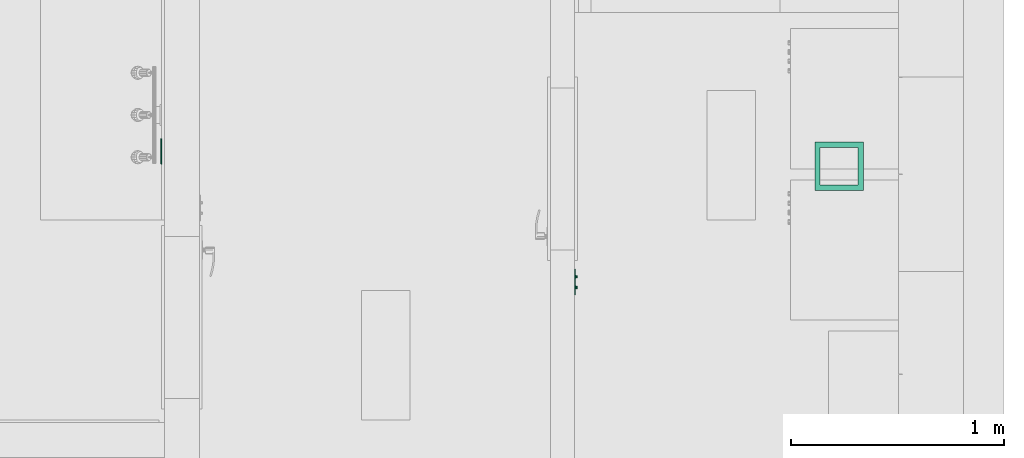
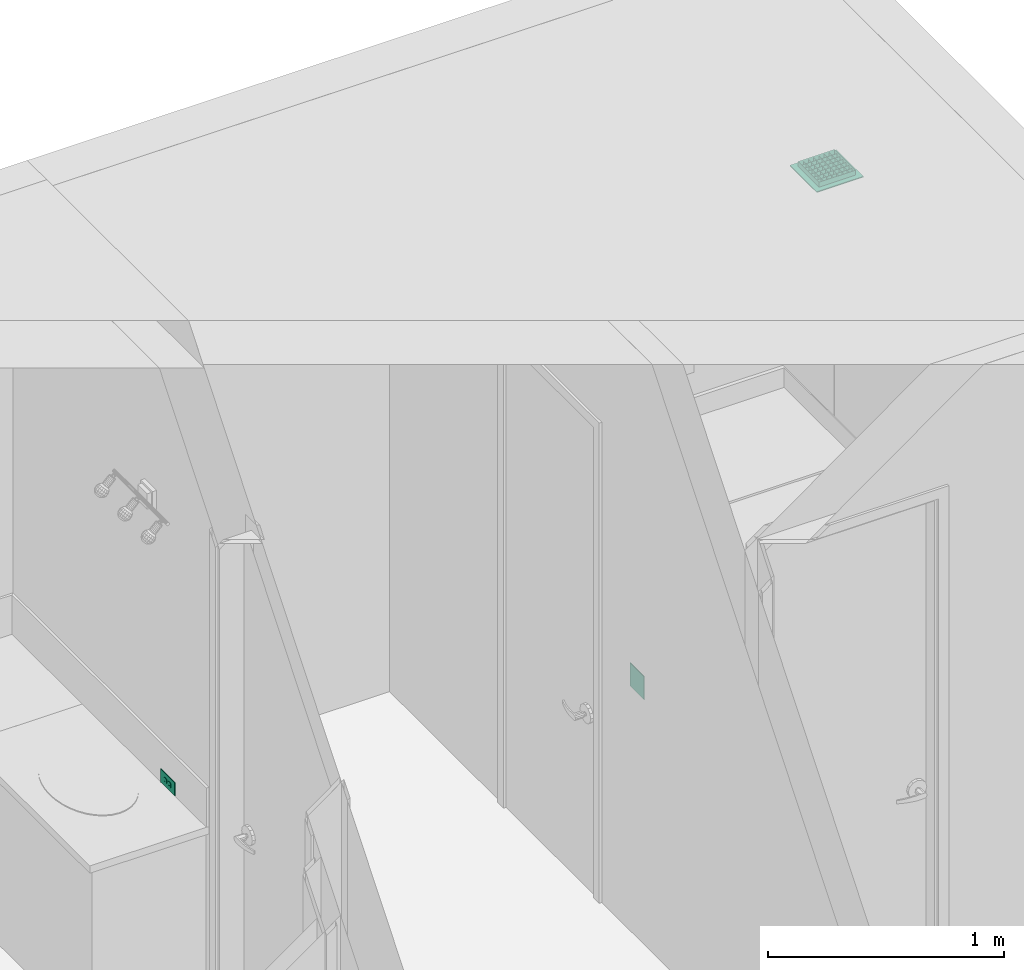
# One storey, part 31 of 103: 2 flow controllers, 1 distribution flow element.
"""IFC2X3 building model written with IfcOpenShell, lengths in inches."""

from ifc_helpers import new_model, entity, si_unit, converted_unit, derived_unit, money_unit, direction, frame, origin_with_axes, place, context, subcontext, project, spatial, open_shell, faceted_brep, surface_model, source, transform, mapped, type_object, element, save


model = new_model("IFC2X3")

# Units and contexts
model_context = context("Model", 3, precision=0.00039370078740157, world=origin_with_axes(), true_north=direction((0.0, 1.0)))
plan_context = context("Plan", 3, precision=0.00039370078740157, world=origin_with_axes(), true_north=direction((0.0, 1.0)))
body_context = subcontext(model_context, "Body", "Model", "MODEL_VIEW")
ifc_project = project(units=[converted_unit("LENGTHUNIT", "INCH", entity("IfcPositiveLengthMeasure", 0.0254), si_unit("LENGTHUNIT", "METRE"), dimensions=[1, 0, 0, 0, 0, 0, 0]), converted_unit("AREAUNIT", "SQUARE_FOOT", entity("IfcPositiveLengthMeasure", 0.09290304), si_unit("AREAUNIT", "SQUARE_METRE"), dimensions=[2, 0, 0, 0, 0, 0, 0]), si_unit("PLANEANGLEUNIT", "RADIAN"), si_unit("SOLIDANGLEUNIT", "STERADIAN"), money_unit("USD"), converted_unit("TIMEUNIT", "Year", entity("IfcTimeMeasure", 31557600.0), si_unit("TIMEUNIT", "SECOND"), dimensions=[0, 0, 1, 0, 0, 0, 0]), si_unit("MASSUNIT", "GRAM", prefix="KILO"), si_unit("THERMODYNAMICTEMPERATUREUNIT", "DEGREE_CELSIUS"), si_unit("LUMINOUSINTENSITYUNIT", "LUMEN"), si_unit("ENERGYUNIT", "JOULE", prefix="MEGA"), derived_unit("SPECIFICHEATCAPACITYUNIT", [(si_unit("ENERGYUNIT", "JOULE"), 1), (si_unit("MASSUNIT", "GRAM", prefix="KILO"), -1), (si_unit("THERMODYNAMICTEMPERATUREUNIT", "KELVIN"), -1)])], contexts=[model_context, plan_context])

# Site, building, storey
site_placement = place(None, origin_with_axes())
site = spatial("IfcSite", under=ifc_project, at=site_placement, Name="Site", CompositionType="ELEMENT")
building_placement = place(site_placement, origin_with_axes())
building = spatial("IfcBuilding", under=site, at=building_placement, Name="Building", CompositionType="ELEMENT")
storey_placement = place(building_placement, frame((0.0, 0.0, 127.9999999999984), z_axis=(0.0, 0.0, 1.0), x_axis=(1.0, 0.0, 0.0)))
storey = spatial("IfcBuildingStorey", under=building, at=storey_placement, Name="Second Floor", CompositionType="ELEMENT", Elevation=128.0)

# Distribution flow element
valve_type = type_object("IfcValveType", Name="Ceiling Grille", PredefinedType="NOTDEFINED")
shared_shape_1 = source(origin_with_axes(), body_context, "Body", "SurfaceModel", [
    faceted_brep([(-4.499876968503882, 4.499876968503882, -0.196850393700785), (-4.499876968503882, 4.499876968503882, 0.0), (4.499876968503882, 4.499876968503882, 0.0), (4.499876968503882, 4.499876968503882, -0.196850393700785), (-4.499876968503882, -4.499876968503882, -0.196850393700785), (-4.499876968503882, -4.499876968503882, 0.0), (4.499876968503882, -4.499876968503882, 0.0), (-3.515624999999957, 3.515624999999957, 0.0), (3.515624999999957, 3.515624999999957, 0.0), (3.515624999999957, -3.515624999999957, 0.0), (-3.515624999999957, -3.515624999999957, 0.0), (4.499876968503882, -4.499876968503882, -0.196850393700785), (-3.515624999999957, 3.515624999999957, -0.196850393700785), (-3.515624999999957, -3.515624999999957, -0.196850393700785), (3.515624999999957, -3.515624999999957, -0.196850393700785), (3.515624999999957, 3.515624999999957, -0.196850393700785)], [[[0, 1, 2, 3]], [[4, 5, 1, 0]], [[1, 5, 6, 2], [7, 8, 9, 10]], [[3, 2, 6, 11]], [[0, 3, 11, 4], [12, 13, 14, 15]], [[11, 6, 5, 4]], [[15, 8, 7, 12]], [[14, 9, 8, 15]], [[13, 10, 9, 14]], [[12, 7, 10, 13]]]),
    surface_model("IfcShellBasedSurfaceModel", [(3.4762549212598, 3.499999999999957, -0.196850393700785), (3.4762549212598, 3.499999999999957, 0.78740157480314), (-3.4762549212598, 3.499999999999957, 0.78740157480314), (-3.4762549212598, 3.499999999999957, -0.196850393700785)], [open_shell([[[0, 1, 2, 3]]])]),
    surface_model("IfcShellBasedSurfaceModel", [(3.4762549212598, 2.499999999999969, -0.196850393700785), (3.4762549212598, 2.499999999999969, 0.78740157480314), (-3.4762549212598, 2.499999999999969, 0.78740157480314), (-3.4762549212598, 2.499999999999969, -0.196850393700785)], [open_shell([[[0, 1, 2, 3]]])]),
    surface_model("IfcShellBasedSurfaceModel", [(3.4762549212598, 1.499999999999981, -0.196850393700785), (3.4762549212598, 1.499999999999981, 0.78740157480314), (-3.4762549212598, 1.499999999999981, 0.78740157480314), (-3.4762549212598, 1.499999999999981, -0.196850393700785)], [open_shell([[[0, 1, 2, 3]]])]),
    surface_model("IfcShellBasedSurfaceModel", [(3.4762549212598, 0.499999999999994, -0.196850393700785), (3.4762549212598, 0.4999999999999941, 0.78740157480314), (-3.4762549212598, 0.4999999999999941, 0.78740157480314), (-3.4762549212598, 0.499999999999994, -0.196850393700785)], [open_shell([[[0, 1, 2, 3]]])]),
    surface_model("IfcShellBasedSurfaceModel", [(3.4762549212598, -0.499999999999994, -0.196850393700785), (3.4762549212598, -0.4999999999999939, 0.78740157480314), (-3.4762549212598, -0.4999999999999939, 0.78740157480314), (-3.4762549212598, -0.499999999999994, -0.196850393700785)], [open_shell([[[0, 1, 2, 3]]])]),
    surface_model("IfcShellBasedSurfaceModel", [(3.4762549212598, -1.499999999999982, -0.196850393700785), (3.4762549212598, -1.499999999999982, 0.78740157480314), (-3.4762549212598, -1.499999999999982, 0.78740157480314), (-3.4762549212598, -1.499999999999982, -0.196850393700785)], [open_shell([[[0, 1, 2, 3]]])]),
    surface_model("IfcShellBasedSurfaceModel", [(3.4762549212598, -2.499999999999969, -0.196850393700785), (3.4762549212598, -2.499999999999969, 0.78740157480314), (-3.4762549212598, -2.499999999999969, 0.78740157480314), (-3.4762549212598, -2.499999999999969, -0.196850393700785)], [open_shell([[[0, 1, 2, 3]]])]),
    surface_model("IfcShellBasedSurfaceModel", [(3.4762549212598, -3.499999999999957, -0.196850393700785), (3.4762549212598, -3.499999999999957, 0.78740157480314), (-3.4762549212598, -3.499999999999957, 0.78740157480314), (-3.4762549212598, -3.499999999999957, -0.196850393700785)], [open_shell([[[0, 1, 2, 3]]])]),
    surface_model("IfcShellBasedSurfaceModel", [(-3.499999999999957, -3.4762549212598, -0.196850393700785), (-3.499999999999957, -3.4762549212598, 0.78740157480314), (-3.499999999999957, 3.4762549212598, 0.78740157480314), (-3.499999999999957, 3.4762549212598, -0.196850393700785)], [open_shell([[[0, 1, 2, 3]]])]),
    surface_model("IfcShellBasedSurfaceModel", [(-2.499999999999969, -3.4762549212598, -0.196850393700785), (-2.499999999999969, -3.4762549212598, 0.78740157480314), (-2.49999999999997, 3.4762549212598, 0.78740157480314), (-2.49999999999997, 3.4762549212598, -0.196850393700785)], [open_shell([[[0, 1, 2, 3]]])]),
    surface_model("IfcShellBasedSurfaceModel", [(-1.499999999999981, -3.4762549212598, -0.196850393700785), (-1.499999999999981, -3.4762549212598, 0.78740157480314), (-1.499999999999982, 3.4762549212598, 0.78740157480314), (-1.499999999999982, 3.4762549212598, -0.196850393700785)], [open_shell([[[0, 1, 2, 3]]])]),
    surface_model("IfcShellBasedSurfaceModel", [(-0.499999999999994, -3.4762549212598, -0.196850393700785), (-0.4999999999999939, -3.4762549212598, 0.78740157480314), (-0.4999999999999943, 3.4762549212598, 0.78740157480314), (-0.4999999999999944, 3.4762549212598, -0.196850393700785)], [open_shell([[[0, 1, 2, 3]]])]),
    surface_model("IfcShellBasedSurfaceModel", [(0.499999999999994, -3.4762549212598, -0.196850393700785), (0.4999999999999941, -3.4762549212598, 0.78740157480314), (0.4999999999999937, 3.4762549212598, 0.78740157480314), (0.4999999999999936, 3.4762549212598, -0.196850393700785)], [open_shell([[[0, 1, 2, 3]]])]),
    surface_model("IfcShellBasedSurfaceModel", [(1.499999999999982, -3.4762549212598, -0.196850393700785), (1.499999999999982, -3.4762549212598, 0.78740157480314), (1.499999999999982, 3.4762549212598, 0.78740157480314), (1.499999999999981, 3.4762549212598, -0.196850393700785)], [open_shell([[[0, 1, 2, 3]]])]),
    surface_model("IfcShellBasedSurfaceModel", [(2.499999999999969, -3.4762549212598, -0.196850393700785), (2.499999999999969, -3.4762549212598, 0.78740157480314), (2.499999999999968, 3.4762549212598, 0.78740157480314), (2.499999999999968, 3.4762549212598, -0.196850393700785)], [open_shell([[[0, 1, 2, 3]]])]),
    surface_model("IfcShellBasedSurfaceModel", [(3.499999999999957, -3.4762549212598, -0.196850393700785), (3.499999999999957, -3.4762549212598, 0.78740157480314), (3.499999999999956, 3.4762549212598, 0.78740157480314), (3.499999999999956, 3.4762549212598, -0.196850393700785)], [open_shell([[[0, 1, 2, 3]]])]),
    surface_model("IfcShellBasedSurfaceModel", [(-3.515624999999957, -3.515624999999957, 0.0), (-3.515624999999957, -3.515624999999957, 0.999999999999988), (-3.515624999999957, 3.515624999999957, 0.9999999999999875), (-3.515624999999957, 3.515624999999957, 0.0), (3.515624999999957, -3.515624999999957, 0.0), (3.515624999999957, -3.515624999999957, 0.999999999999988), (3.515624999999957, 3.515624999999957, 0.9999999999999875), (3.515624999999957, 3.515624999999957, 0.0)], [open_shell([[[0, 1, 2, 3]], [[4, 5, 1, 0]], [[3, 2, 6, 7]], [[7, 6, 5, 4]]])]),
])
distribution_flow_element_placement = place(storey_placement, frame((213.9998769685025, 514.4998769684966, 119.9999999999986), z_axis=(0.0, 0.0, 1.0), x_axis=(-1.0, 0.0, 0.0)))
element("IfcDistributionFlowElement", 1, at=distribution_flow_element_placement, inside=storey, type_object=valve_type, Name="FU - 007", context=body_context, shape_type="MappedRepresentation", body=[
    mapped(shared_shape_1, transform((0.0, 0.0, 0.0))),
])

# Flow controllers
switching_device_type_1 = type_object("IfcSwitchingDeviceType", Name="Outlet 1 US", PredefinedType="NOTDEFINED")
shared_shape_2 = source(origin_with_axes(), body_context, "Body", "Brep", [
    faceted_brep([(1.18110236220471, -0.03444881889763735, 0.3937007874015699), (0.708661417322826, -0.03444881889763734, 0.5436477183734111), (0.708661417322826, -0.2165354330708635, 0.5436477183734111), (1.18110236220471, -0.2165354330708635, 0.3937007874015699), (1.18110236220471, -0.0344488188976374, -0.3937007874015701), (0.708661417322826, -0.03444881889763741, -0.543647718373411), (0.2362204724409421, -0.0344488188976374, -0.3937007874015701), (0.2362204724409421, -0.03444881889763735, 0.3937007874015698), (0.7086614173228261, -0.03444881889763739, -0.196850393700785), (0.472440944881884, -0.03444881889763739, -0.196850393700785), (0.472440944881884, -0.03444881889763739, -0.275590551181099), (0.7086614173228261, -0.03444881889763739, -0.275590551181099), (0.7086614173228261, -0.03444881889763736, 0.196850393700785), (0.7086614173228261, -0.03444881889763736, 0.275590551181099), (0.472440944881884, -0.03444881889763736, 0.275590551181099), (0.472440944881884, -0.03444881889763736, 0.196850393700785), (1.102362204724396, -0.03444881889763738, -0.07874015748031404), (1.102362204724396, -0.03444881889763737, 0.07874015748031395), (1.023622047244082, -0.03444881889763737, 0.07874015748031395), (0.984251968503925, -0.03444881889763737, 0.06819097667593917), (0.9554310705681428, -0.03444881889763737, 0.03937007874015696), (0.944881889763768, -0.03444881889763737, 0.0), (0.9554310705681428, -0.03444881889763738, -0.03937007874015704), (0.984251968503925, -0.03444881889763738, -0.06819097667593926), (1.023622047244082, -0.03444881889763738, -0.07874015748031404), (0.2362204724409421, -0.2165354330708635, 0.3937007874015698), (0.2362204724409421, -0.2165354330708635, -0.3937007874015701), (0.708661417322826, -0.2165354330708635, -0.543647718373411), (1.18110236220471, -0.2165354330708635, -0.3937007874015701), (0.7086614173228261, -0.2165354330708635, -0.196850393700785), (0.7086614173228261, -0.2165354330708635, -0.275590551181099), (0.472440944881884, -0.2165354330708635, -0.275590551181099), (0.472440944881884, -0.2165354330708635, -0.196850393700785), (0.7086614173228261, -0.2165354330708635, 0.196850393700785), (0.472440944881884, -0.2165354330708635, 0.196850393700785), (0.472440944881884, -0.2165354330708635, 0.275590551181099), (0.7086614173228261, -0.2165354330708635, 0.275590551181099), (1.102362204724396, -0.2165354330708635, -0.07874015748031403), (1.023622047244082, -0.2165354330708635, -0.07874015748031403), (0.984251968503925, -0.2165354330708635, -0.06819097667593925), (0.9554310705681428, -0.2165354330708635, -0.03937007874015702), (0.944881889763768, -0.2165354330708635, 0.0), (0.9554310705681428, -0.2165354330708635, 0.03937007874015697), (0.984251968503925, -0.2165354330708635, 0.06819097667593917), (1.023622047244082, -0.2165354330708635, 0.07874015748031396), (1.102362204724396, -0.2165354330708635, 0.07874015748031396)], [[[0, 1, 2, 3]], [[0, 4, 5, 6, 7, 1], [8, 9, 10, 11], [12, 13, 14, 15], [16, 17, 18, 19, 20, 21, 22, 23, 24]], [[1, 7, 25, 2]], [[3, 2, 25, 26, 27, 28], [29, 30, 31, 32], [33, 34, 35, 36], [37, 38, 39, 40, 41, 42, 43, 44, 45]], [[4, 0, 3, 28]], [[5, 4, 28, 27]], [[6, 5, 27, 26]], [[7, 6, 26, 25]], [[9, 8, 29, 32]], [[10, 9, 32, 31]], [[11, 10, 31, 30]], [[8, 11, 30, 29]], [[13, 12, 33, 36]], [[14, 13, 36, 35]], [[15, 14, 35, 34]], [[12, 15, 34, 33]], [[17, 16, 37, 45]], [[18, 17, 45, 44]], [[19, 18, 44, 43]], [[20, 19, 43, 42]], [[21, 20, 42, 41]], [[22, 21, 41, 40]], [[23, 22, 40, 39]], [[24, 23, 39, 38]], [[16, 24, 38, 37]]]),
    faceted_brep([(-0.2362204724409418, -0.03444881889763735, 0.3937007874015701), (-0.708661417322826, -0.03444881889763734, 0.5436477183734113), (-0.708661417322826, -0.2165354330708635, 0.5436477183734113), (-0.2362204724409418, -0.2165354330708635, 0.3937007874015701), (-0.2362204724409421, -0.0344488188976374, -0.39370078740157), (-0.708661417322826, -0.03444881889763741, -0.5436477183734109), (-1.18110236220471, -0.0344488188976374, -0.3937007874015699), (-1.18110236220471, -0.03444881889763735, 0.39370078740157), (-0.7086614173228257, -0.03444881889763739, -0.196850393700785), (-0.9448818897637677, -0.03444881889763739, -0.196850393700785), (-0.9448818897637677, -0.03444881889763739, -0.275590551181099), (-0.7086614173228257, -0.03444881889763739, -0.275590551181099), (-0.7086614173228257, -0.03444881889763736, 0.196850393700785), (-0.7086614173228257, -0.03444881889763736, 0.275590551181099), (-0.9448818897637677, -0.03444881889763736, 0.275590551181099), (-0.9448818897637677, -0.03444881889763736, 0.196850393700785), (-0.3149606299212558, -0.03444881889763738, -0.07874015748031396), (-0.3149606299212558, -0.03444881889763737, 0.07874015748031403), (-0.3937007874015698, -0.03444881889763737, 0.07874015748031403), (-0.4330708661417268, -0.03444881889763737, 0.06819097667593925), (-0.461891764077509, -0.03444881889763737, 0.03937007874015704), (-0.4724409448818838, -0.03444881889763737, 0.0), (-0.461891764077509, -0.03444881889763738, -0.03937007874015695), (-0.4330708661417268, -0.03444881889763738, -0.06819097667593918), (-0.3937007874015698, -0.03444881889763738, -0.07874015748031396), (-1.18110236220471, -0.2165354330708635, 0.39370078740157), (-1.18110236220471, -0.2165354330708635, -0.3937007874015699), (-0.708661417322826, -0.2165354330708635, -0.5436477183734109), (-0.2362204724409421, -0.2165354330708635, -0.39370078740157), (-0.7086614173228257, -0.2165354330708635, -0.196850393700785), (-0.7086614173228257, -0.2165354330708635, -0.275590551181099), (-0.9448818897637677, -0.2165354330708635, -0.275590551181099), (-0.9448818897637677, -0.2165354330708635, -0.196850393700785), (-0.7086614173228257, -0.2165354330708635, 0.196850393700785), (-0.9448818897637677, -0.2165354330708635, 0.196850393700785), (-0.9448818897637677, -0.2165354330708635, 0.275590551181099), (-0.7086614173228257, -0.2165354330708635, 0.275590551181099), (-0.3149606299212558, -0.2165354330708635, -0.07874015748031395), (-0.3937007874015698, -0.2165354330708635, -0.07874015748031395), (-0.4330708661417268, -0.2165354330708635, -0.06819097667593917), (-0.461891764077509, -0.2165354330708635, -0.03937007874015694), (-0.4724409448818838, -0.2165354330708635, 0.0), (-0.461891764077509, -0.2165354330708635, 0.03937007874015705), (-0.4330708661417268, -0.2165354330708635, 0.06819097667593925), (-0.3937007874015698, -0.2165354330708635, 0.07874015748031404), (-0.3149606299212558, -0.2165354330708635, 0.07874015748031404)], [[[0, 1, 2, 3]], [[0, 4, 5, 6, 7, 1], [8, 9, 10, 11], [12, 13, 14, 15], [16, 17, 18, 19, 20, 21, 22, 23, 24]], [[1, 7, 25, 2]], [[3, 2, 25, 26, 27, 28], [29, 30, 31, 32], [33, 34, 35, 36], [37, 38, 39, 40, 41, 42, 43, 44, 45]], [[4, 0, 3, 28]], [[5, 4, 28, 27]], [[6, 5, 27, 26]], [[7, 6, 26, 25]], [[9, 8, 29, 32]], [[10, 9, 32, 31]], [[11, 10, 31, 30]], [[8, 11, 30, 29]], [[13, 12, 33, 36]], [[14, 13, 36, 35]], [[15, 14, 35, 34]], [[12, 15, 34, 33]], [[17, 16, 37, 45]], [[18, 17, 45, 44]], [[19, 18, 44, 43]], [[20, 19, 43, 42]], [[21, 20, 42, 41]], [[22, 21, 41, 40]], [[23, 22, 40, 39]], [[24, 23, 39, 38]], [[16, 24, 38, 37]]]),
    faceted_brep([(2.327755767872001, -0.1377952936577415, -1.343503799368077), (2.327755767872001, -0.1377952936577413, 1.343503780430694), (-2.32775574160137, -0.1377952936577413, 1.343503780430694), (-2.32775574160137, -0.1377952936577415, -1.343503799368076), (1.18110236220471, -0.1377952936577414, -0.39370078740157), (0.708661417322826, -0.1377952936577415, -0.5436477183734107), (0.2362204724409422, -0.1377952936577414, -0.39370078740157), (0.2362204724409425, -0.1377952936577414, 0.3937007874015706), (0.7086614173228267, -0.1377952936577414, 0.5436477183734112), (1.18110236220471, -0.1377952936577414, 0.3937007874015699), (-1.181102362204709, -0.1377952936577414, 0.3937007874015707), (-0.7086614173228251, -0.1377952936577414, 0.5436477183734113), (-0.2362204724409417, -0.1377952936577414, 0.39370078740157), (-0.2362204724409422, -0.1377952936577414, -0.3937007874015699), (-0.708661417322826, -0.1377952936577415, -0.5436477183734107), (-1.18110236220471, -0.1377952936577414, -0.3937007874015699), (2.336671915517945, -0.1366214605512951, -1.352419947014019), (2.336671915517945, -0.1366214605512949, 1.352419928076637), (-2.336671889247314, -0.1366214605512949, 1.352419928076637), (-2.336671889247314, -0.1366214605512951, -1.352419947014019), (1.18110236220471, -0.0344488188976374, -0.39370078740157), (0.708661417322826, -0.0344488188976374, -0.5436477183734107), (0.2362204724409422, -0.0344488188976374, -0.39370078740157), (0.2362204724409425, -0.03444881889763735, 0.3937007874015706), (0.7086614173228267, -0.03444881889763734, 0.5436477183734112), (1.18110236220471, -0.03444881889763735, 0.3937007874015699), (-1.181102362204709, -0.03444881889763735, 0.3937007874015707), (-0.7086614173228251, -0.03444881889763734, 0.5436477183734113), (-0.2362204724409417, -0.03444881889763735, 0.39370078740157), (-0.2362204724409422, -0.0344488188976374, -0.3937007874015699), (-0.708661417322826, -0.0344488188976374, -0.5436477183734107), (-1.18110236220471, -0.0344488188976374, -0.3937007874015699), (2.352114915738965, -0.1277054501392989, -1.36786294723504), (2.352114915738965, -0.1277054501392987, 1.367862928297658), (-2.352114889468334, -0.1277054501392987, 1.367862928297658), (-2.352114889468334, -0.1277054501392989, -1.367862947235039), (2.361030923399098, -0.1122624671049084, -1.376778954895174), (2.361030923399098, -0.1122624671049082, 1.376778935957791), (-2.361030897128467, -0.1122624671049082, 1.376778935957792), (-2.361030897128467, -0.1122624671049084, -1.376778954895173), (2.36220473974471, -0.1033464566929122, -1.377952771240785), (2.36220473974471, -0.103346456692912, 1.377952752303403), (-2.362204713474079, -0.103346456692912, 1.377952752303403), (-2.362204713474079, -0.1033464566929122, -1.377952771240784), (2.36220472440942, 0.0, -1.377952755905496), (2.36220472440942, 0.0, 1.377952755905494), (-2.36220472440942, 0.0, 1.377952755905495), (-2.36220472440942, 0.0, -1.377952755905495)], [[[0, 1, 2, 3], [4, 5, 6, 7, 8, 9], [10, 11, 12, 13, 14, 15]], [[1, 0, 16, 17]], [[2, 1, 17, 18]], [[3, 2, 18, 19]], [[0, 3, 19, 16]], [[4, 20, 21, 5]], [[5, 21, 22, 6]], [[6, 22, 23, 7]], [[7, 23, 24, 8]], [[8, 24, 25, 9]], [[9, 25, 20, 4]], [[11, 10, 26, 27]], [[12, 11, 27, 28]], [[13, 12, 28, 29]], [[14, 13, 29, 30]], [[15, 14, 30, 31]], [[10, 15, 31, 26]], [[17, 16, 32, 33]], [[18, 17, 33, 34]], [[19, 18, 34, 35]], [[16, 19, 35, 32]], [[21, 20, 25, 24, 23, 22]], [[27, 26, 31, 30, 29, 28]], [[33, 32, 36, 37]], [[34, 33, 37, 38]], [[35, 34, 38, 39]], [[32, 35, 39, 36]], [[37, 36, 40, 41]], [[38, 37, 41, 42]], [[39, 38, 42, 43]], [[36, 39, 43, 40]], [[41, 40, 44, 45]], [[42, 41, 45, 46]], [[43, 42, 46, 47]], [[40, 43, 47, 44]], [[46, 45, 44, 47]]]),
])
flow_controller_1_placement = place(storey_placement, frame((88.49999873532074, 517.2491382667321, 37.49803149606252), z_axis=(0.0, 0.0, 1.0), x_axis=(9.406550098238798e-08, -0.9999999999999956, 0.0)))
element("IfcFlowController", 2, at=flow_controller_1_placement, inside=storey, type_object=switching_device_type_1, Name="FU - 029", context=body_context, shape_type="MappedRepresentation", body=[
    mapped(shared_shape_2, transform((0.0, 0.0, 0.0))),
])
switching_device_type_2 = type_object("IfcSwitchingDeviceType", Name="Switch US", PredefinedType="NOTDEFINED")
shared_shape_3 = source(origin_with_axes(), body_context, "Body", "Brep", [
    faceted_brep([(1.18110236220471, 0.0, -0.5905511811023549), (0.7874015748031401, 0.0, -0.5905511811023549), (0.7874015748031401, 0.0, 0.5905511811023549), (1.18110236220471, 0.0, 0.5905511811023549), (1.18110236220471, -0.1033464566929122, -0.5905511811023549), (0.7874015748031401, -0.1033464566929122, -0.5905511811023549), (0.7874015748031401, -0.1033464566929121, 0.157480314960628), (0.7874015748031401, -0.4970472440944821, 0.1574803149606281), (0.7874015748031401, -0.4970472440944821, 0.472440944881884), (0.7874015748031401, -0.1033464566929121, 0.472440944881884), (0.7874015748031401, -0.1033464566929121, 0.5905511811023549), (1.18110236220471, -0.103346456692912, 0.5905511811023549), (1.18110236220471, -0.1033464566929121, 0.472440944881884), (1.18110236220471, -0.4970472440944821, 0.472440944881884), (1.18110236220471, -0.4970472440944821, 0.1574803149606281), (1.18110236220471, -0.1033464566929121, 0.157480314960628)], [[[0, 1, 2, 3]], [[4, 5, 1, 0]], [[1, 5, 6, 7, 8, 9, 10, 2]], [[3, 2, 10, 11]], [[0, 3, 11, 12, 13, 14, 15, 4]], [[15, 6, 5, 4]], [[14, 7, 6, 15]], [[13, 8, 7, 14]], [[12, 9, 8, 13]], [[11, 10, 9, 12]]]),
    faceted_brep([(1.259842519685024, 0.0, -0.669291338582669), (1.259842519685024, -0.1771653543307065, -0.669291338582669), (0.7086614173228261, -0.1771653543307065, -0.669291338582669), (0.7086614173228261, 0.0, -0.669291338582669), (1.259842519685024, 0.0, 0.669291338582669), (1.259842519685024, -0.1771653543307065, 0.669291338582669), (0.7086614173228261, -0.1771653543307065, 0.669291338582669), (1.18110236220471, -0.1771653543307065, -0.5905511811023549), (0.78740157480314, -0.1771653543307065, -0.5905511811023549), (0.78740157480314, -0.1771653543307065, 0.5905511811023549), (1.18110236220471, -0.1771653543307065, 0.5905511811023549), (0.7086614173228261, 0.0, 0.669291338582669), (1.18110236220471, 0.0, -0.5905511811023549), (1.18110236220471, 0.0, 0.5905511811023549), (0.78740157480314, 0.0, 0.5905511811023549), (0.78740157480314, 0.0, -0.5905511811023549)], [[[0, 1, 2, 3]], [[4, 5, 1, 0]], [[1, 5, 6, 2], [7, 8, 9, 10]], [[3, 2, 6, 11]], [[0, 3, 11, 4], [12, 13, 14, 15]], [[11, 6, 5, 4]], [[15, 8, 7, 12]], [[14, 9, 8, 15]], [[13, 10, 9, 14]], [[12, 7, 10, 13]]]),
    faceted_brep([(0.0, -0.103346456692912, 2.362204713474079), (2.362204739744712, -0.103346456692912, 2.362204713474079), (2.36220472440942, 0.0, 2.36220472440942), (0.0, 0.0, 2.36220472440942), (0.0, -0.1122624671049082, 2.361030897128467), (2.361030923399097, -0.1122624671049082, 2.361030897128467), (2.362204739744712, -0.1033464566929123, -2.36220473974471), (2.36220472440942, 0.0, -2.36220472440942), (0.0, 0.0, -2.36220472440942), (0.7086614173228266, 0.0, -0.669291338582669), (1.259842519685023, 0.0, -0.669291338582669), (1.259842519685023, 0.0, 0.669291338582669), (0.7086614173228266, 0.0, 0.669291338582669), (0.0, -0.1033464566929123, -2.36220473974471), (0.0, -0.1122624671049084, -2.361030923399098), (0.0, -0.1277054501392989, -2.352114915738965), (0.0, -0.1366214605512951, -2.336671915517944), (0.0, -0.1377952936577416, -2.327755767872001), (0.0, -0.1377952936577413, 2.32775574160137), (0.0, -0.1366214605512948, 2.336671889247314), (0.0, -0.1277054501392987, 2.352114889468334), (2.352114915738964, -0.1277054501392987, 2.352114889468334), (2.361030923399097, -0.1122624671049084, -2.361030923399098), (0.7086614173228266, -0.1377952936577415, -0.669291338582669), (1.259842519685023, -0.1377952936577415, -0.669291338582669), (1.259842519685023, -0.1377952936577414, 0.669291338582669), (0.7086614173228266, -0.1377952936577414, 0.669291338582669), (2.352114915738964, -0.1277054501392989, -2.352114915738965), (2.336671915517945, -0.1366214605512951, -2.336671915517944), (2.327755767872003, -0.1377952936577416, -2.327755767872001), (2.327755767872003, -0.1377952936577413, 2.32775574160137), (2.336671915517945, -0.1366214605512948, 2.336671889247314)], [[[0, 1, 2, 3]], [[4, 5, 1, 0]], [[6, 7, 2, 1]], [[3, 2, 7, 8], [9, 10, 11, 12]], [[8, 13, 14, 15, 16, 17, 18, 19, 20, 4, 0, 3]], [[20, 21, 5, 4]], [[22, 6, 1, 5]], [[8, 7, 6, 13]], [[10, 9, 23, 24]], [[11, 10, 24, 25]], [[12, 11, 25, 26]], [[9, 12, 26, 23]], [[13, 6, 22, 14]], [[14, 22, 27, 15]], [[15, 27, 28, 16]], [[16, 28, 29, 17]], [[17, 29, 30, 18], [25, 24, 23, 26]], [[18, 30, 31, 19]], [[19, 31, 21, 20]], [[27, 22, 5, 21]], [[28, 27, 21, 31]], [[29, 28, 31, 30]]]),
    faceted_brep([(-0.78740157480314, 0.0, -0.5905511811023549), (-1.18110236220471, 0.0, -0.5905511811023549), (-1.18110236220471, 0.0, 0.5905511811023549), (-0.78740157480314, 0.0, 0.5905511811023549), (-0.78740157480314, -0.1033464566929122, -0.5905511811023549), (-1.18110236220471, -0.1033464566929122, -0.5905511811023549), (-1.18110236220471, -0.1033464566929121, 0.157480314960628), (-1.18110236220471, -0.4970472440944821, 0.1574803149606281), (-1.18110236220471, -0.4970472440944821, 0.472440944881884), (-1.18110236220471, -0.1033464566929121, 0.472440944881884), (-1.18110236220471, -0.1033464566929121, 0.5905511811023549), (-0.78740157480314, -0.103346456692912, 0.5905511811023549), (-0.78740157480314, -0.1033464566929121, 0.472440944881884), (-0.78740157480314, -0.4970472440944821, 0.472440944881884), (-0.78740157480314, -0.4970472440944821, 0.1574803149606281), (-0.78740157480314, -0.1033464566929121, 0.157480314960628)], [[[0, 1, 2, 3]], [[4, 5, 1, 0]], [[1, 5, 6, 7, 8, 9, 10, 2]], [[3, 2, 10, 11]], [[0, 3, 11, 12, 13, 14, 15, 4]], [[15, 6, 5, 4]], [[14, 7, 6, 15]], [[13, 8, 7, 14]], [[12, 9, 8, 13]], [[11, 10, 9, 12]]]),
    faceted_brep([(-0.7086614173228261, 0.0, -0.669291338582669), (-0.7086614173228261, -0.1771653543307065, -0.669291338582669), (-1.259842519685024, -0.1771653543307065, -0.669291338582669), (-1.259842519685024, 0.0, -0.669291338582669), (-0.7086614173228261, 0.0, 0.669291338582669), (-0.7086614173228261, -0.1771653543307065, 0.669291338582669), (-1.259842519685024, -0.1771653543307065, 0.669291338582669), (-0.78740157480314, -0.1771653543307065, -0.5905511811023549), (-1.18110236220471, -0.1771653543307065, -0.5905511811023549), (-1.18110236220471, -0.1771653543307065, 0.5905511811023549), (-0.78740157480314, -0.1771653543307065, 0.5905511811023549), (-1.259842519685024, 0.0, 0.669291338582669), (-0.78740157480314, 0.0, -0.5905511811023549), (-0.78740157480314, 0.0, 0.5905511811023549), (-1.18110236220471, 0.0, 0.5905511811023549), (-1.18110236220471, 0.0, -0.5905511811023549)], [[[0, 1, 2, 3]], [[4, 5, 1, 0]], [[1, 5, 6, 2], [7, 8, 9, 10]], [[3, 2, 6, 11]], [[0, 3, 11, 4], [12, 13, 14, 15]], [[11, 6, 5, 4]], [[15, 8, 7, 12]], [[14, 9, 8, 15]], [[13, 10, 9, 14]], [[12, 7, 10, 13]]]),
    faceted_brep([(0.0, 0.0, -2.36220472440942), (-2.362204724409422, 0.0, -2.36220472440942), (-2.362204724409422, 0.0, 2.36220472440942), (0.0, 0.0, 2.36220472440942), (-1.259842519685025, 0.0, -0.669291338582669), (-0.7086614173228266, 0.0, -0.669291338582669), (-0.7086614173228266, 0.0, 0.669291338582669), (-1.259842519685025, 0.0, 0.669291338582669), (0.0, -0.1033464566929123, -2.36220473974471), (-2.362204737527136, -0.1033464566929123, -2.36220473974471), (-2.362204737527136, -0.103346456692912, 2.362204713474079), (0.0, -0.103346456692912, 2.362204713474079), (0.0, -0.1122624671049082, 2.361030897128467), (0.0, -0.1277054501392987, 2.352114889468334), (0.0, -0.1366214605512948, 2.336671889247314), (0.0, -0.1377952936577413, 2.32775574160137), (0.0, -0.1377952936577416, -2.327755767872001), (0.0, -0.1366214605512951, -2.336671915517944), (0.0, -0.1277054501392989, -2.352114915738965), (0.0, -0.1122624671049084, -2.361030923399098), (-1.259842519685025, -0.1377952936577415, -0.669291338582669), (-0.7086614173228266, -0.1377952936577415, -0.669291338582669), (-0.7086614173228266, -0.1377952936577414, 0.669291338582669), (-1.259842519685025, -0.1377952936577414, 0.669291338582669), (-2.361030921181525, -0.1122624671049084, -2.361030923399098), (-2.361030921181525, -0.1122624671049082, 2.361030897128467), (-2.352114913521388, -0.1277054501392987, 2.352114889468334), (-2.336671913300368, -0.1366214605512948, 2.336671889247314), (-2.327755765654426, -0.1377952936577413, 2.32775574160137), (-2.327755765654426, -0.1377952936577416, -2.327755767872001), (-2.336671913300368, -0.1366214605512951, -2.336671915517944), (-2.352114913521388, -0.1277054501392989, -2.352114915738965)], [[[0, 1, 2, 3], [4, 5, 6, 7]], [[8, 9, 1, 0]], [[10, 2, 1, 9]], [[3, 2, 10, 11]], [[11, 12, 13, 14, 15, 16, 17, 18, 19, 8, 0, 3]], [[5, 4, 20, 21]], [[6, 5, 21, 22]], [[7, 6, 22, 23]], [[4, 7, 23, 20]], [[19, 24, 9, 8]], [[25, 10, 9, 24]], [[11, 10, 25, 12]], [[12, 25, 26, 13]], [[13, 26, 27, 14]], [[14, 27, 28, 15]], [[15, 28, 29, 16], [22, 21, 20, 23]], [[16, 29, 30, 17]], [[17, 30, 31, 18]], [[18, 31, 24, 19]], [[26, 25, 24, 31]], [[27, 26, 31, 30]], [[28, 27, 30, 29]]]),
])
flow_controller_2_placement = place(storey_placement, frame((164.9999999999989, 493.0287586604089, 45.99999999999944), z_axis=(0.0, 0.0, 1.0), x_axis=(0.0, 1.0, 0.0)))
element("IfcFlowController", 3, at=flow_controller_2_placement, inside=storey, type_object=switching_device_type_2, Name="OBJ-09", context=body_context, shape_type="MappedRepresentation", body=[
    mapped(shared_shape_3, transform((0.0, 0.0, 0.0))),
])

save(model, "model.ifc")
